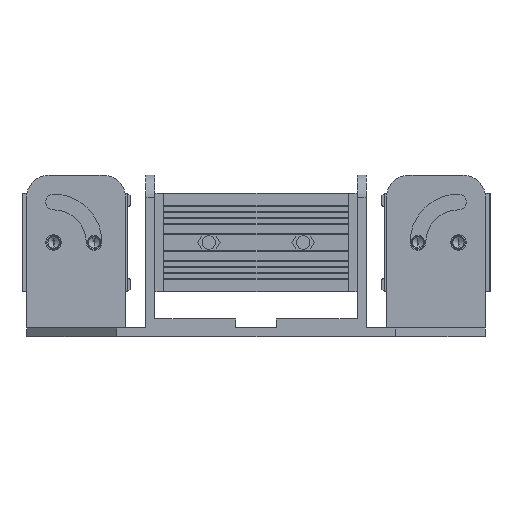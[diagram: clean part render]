
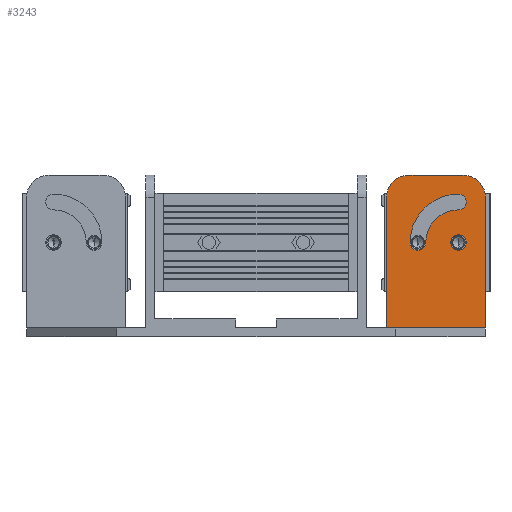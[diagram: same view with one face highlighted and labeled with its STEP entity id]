
A CAD part, left-side view. The second image highlights one B-rep face of the part: STEP entity #3243.
In plain terms, the highlighted planar face has unit normal (-1, 0, 0).
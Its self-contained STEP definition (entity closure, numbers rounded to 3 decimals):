
#277=DIRECTION('',(0.,1.,0.));
#278=VECTOR('',#277,22.);
#279=CARTESIAN_POINT('',(-57.5,-51.,2.));
#280=LINE('',#279,#278);
#713=DIRECTION('',(0.,0.,-1.));
#714=VECTOR('',#713,29.);
#715=CARTESIAN_POINT('',(-57.5,-51.,31.));
#716=LINE('',#715,#714);
#797=CARTESIAN_POINT('',(-57.5,-45.,21.));
#798=DIRECTION('',(-1.,0.,0.));
#799=DIRECTION('',(0.,-1.,0.));
#800=AXIS2_PLACEMENT_3D('',#797,#798,#799);
#802=CARTESIAN_POINT('',(-57.5,-45.,21.));
#803=DIRECTION('',(-1.,0.,0.));
#804=DIRECTION('',(0.,1.,0.));
#805=AXIS2_PLACEMENT_3D('',#802,#803,#804);
#807=CARTESIAN_POINT('',(-57.5,-45.,21.));
#808=DIRECTION('',(-1.,0.,0.));
#809=DIRECTION('',(0.,0.,1.));
#810=AXIS2_PLACEMENT_3D('',#807,#808,#809);
#812=CARTESIAN_POINT('',(-57.5,-36.,21.));
#813=DIRECTION('',(-1.,0.,0.));
#814=DIRECTION('',(0.,1.,0.));
#815=AXIS2_PLACEMENT_3D('',#812,#813,#814);
#817=CARTESIAN_POINT('',(-57.5,-45.,21.));
#818=DIRECTION('',(-1.,0.,0.));
#819=DIRECTION('',(0.,0.,1.));
#820=AXIS2_PLACEMENT_3D('',#817,#818,#819);
#822=CARTESIAN_POINT('',(-57.5,-45.,30.));
#823=DIRECTION('',(-1.,0.,0.));
#824=DIRECTION('',(0.,0.,-1.));
#825=AXIS2_PLACEMENT_3D('',#822,#823,#824);
#827=CARTESIAN_POINT('',(-57.5,-34.,31.));
#828=DIRECTION('',(-1.,0.,0.));
#829=DIRECTION('',(0.,0.,1.));
#830=AXIS2_PLACEMENT_3D('',#827,#828,#829);
#832=DIRECTION('',(0.,1.,0.));
#833=VECTOR('',#832,12.);
#834=CARTESIAN_POINT('',(-57.5,-46.,36.));
#835=LINE('',#834,#833);
#836=CARTESIAN_POINT('',(-57.5,-46.,31.));
#837=DIRECTION('',(-1.,0.,0.));
#838=DIRECTION('',(0.,-1.,0.));
#839=AXIS2_PLACEMENT_3D('',#836,#837,#838);
#1021=DIRECTION('',(0.,0.,-1.));
#1022=VECTOR('',#1021,29.);
#1023=CARTESIAN_POINT('',(-57.5,-29.,31.));
#1024=LINE('',#1023,#1022);
#1817=CARTESIAN_POINT('',(-57.5,-29.,2.));
#1819=VERTEX_POINT('',#1817);
#1821=CARTESIAN_POINT('',(-57.5,-51.,2.));
#1822=VERTEX_POINT('',#1821);
#1825=CARTESIAN_POINT('',(-57.5,-46.75,21.));
#1826=CARTESIAN_POINT('',(-57.5,-43.25,21.));
#1827=VERTEX_POINT('',#1825);
#1828=VERTEX_POINT('',#1826);
#1829=CARTESIAN_POINT('',(-57.5,-45.,31.75));
#1830=CARTESIAN_POINT('',(-57.5,-34.25,21.));
#1831=VERTEX_POINT('',#1829);
#1832=VERTEX_POINT('',#1830);
#1833=CARTESIAN_POINT('',(-57.5,-37.75,21.));
#1834=VERTEX_POINT('',#1833);
#1835=CARTESIAN_POINT('',(-57.5,-45.,28.25));
#1836=VERTEX_POINT('',#1835);
#2245=CARTESIAN_POINT('',(-57.5,-34.,36.));
#2246=VERTEX_POINT('',#2245);
#2247=CARTESIAN_POINT('',(-57.5,-29.,31.));
#2248=VERTEX_POINT('',#2247);
#2249=CARTESIAN_POINT('',(-57.5,-51.,31.));
#2250=CARTESIAN_POINT('',(-57.5,-46.,36.));
#2251=VERTEX_POINT('',#2249);
#2252=VERTEX_POINT('',#2250);
#3211=CARTESIAN_POINT('',(-57.5,-51.,36.));
#3212=DIRECTION('',(-1.,0.,0.));
#3213=DIRECTION('',(0.,0.,-1.));
#3214=AXIS2_PLACEMENT_3D('',#3211,#3212,#3213);
#3215=PLANE('',#3214);
#3217=ORIENTED_EDGE('',*,*,#3216,.F.);
#3219=ORIENTED_EDGE('',*,*,#3218,.F.);
#3221=ORIENTED_EDGE('',*,*,#3220,.F.);
#3222=ORIENTED_EDGE('',*,*,#3111,.T.);
#3223=ORIENTED_EDGE('',*,*,#2410,.T.);
#3225=ORIENTED_EDGE('',*,*,#3224,.F.);
#3226=EDGE_LOOP('',(#3217,#3219,#3221,#3222,#3223,#3225));
#3227=FACE_OUTER_BOUND('',#3226,.F.);
#3228=ORIENTED_EDGE('',*,*,#3185,.T.);
#3230=ORIENTED_EDGE('',*,*,#3229,.T.);
#3231=EDGE_LOOP('',(#3228,#3230));
#3232=FACE_BOUND('',#3231,.F.);
#3234=ORIENTED_EDGE('',*,*,#3233,.T.);
#3236=ORIENTED_EDGE('',*,*,#3235,.T.);
#3238=ORIENTED_EDGE('',*,*,#3237,.F.);
#3240=ORIENTED_EDGE('',*,*,#3239,.T.);
#3241=EDGE_LOOP('',(#3234,#3236,#3238,#3240));
#3242=FACE_BOUND('',#3241,.F.);
#801=CIRCLE('',#800,1.75);
#806=CIRCLE('',#805,1.75);
#811=CIRCLE('',#810,10.75);
#816=CIRCLE('',#815,1.75);
#821=CIRCLE('',#820,7.25);
#826=CIRCLE('',#825,1.75);
#831=CIRCLE('',#830,5.);
#840=CIRCLE('',#839,5.);
#2410=EDGE_CURVE('',#1822,#1819,#280,.T.);
#3111=EDGE_CURVE('',#2251,#1822,#716,.T.);
#3185=EDGE_CURVE('',#1827,#1828,#801,.T.);
#3216=EDGE_CURVE('',#2246,#2248,#831,.T.);
#3218=EDGE_CURVE('',#2252,#2246,#835,.T.);
#3220=EDGE_CURVE('',#2251,#2252,#840,.T.);
#3224=EDGE_CURVE('',#2248,#1819,#1024,.T.);
#3229=EDGE_CURVE('',#1828,#1827,#806,.T.);
#3233=EDGE_CURVE('',#1831,#1832,#811,.T.);
#3235=EDGE_CURVE('',#1832,#1834,#816,.T.);
#3237=EDGE_CURVE('',#1836,#1834,#821,.T.);
#3239=EDGE_CURVE('',#1836,#1831,#826,.T.);
#3243=ADVANCED_FACE('',(#3227,#3232,#3242),#3215,.T.);
